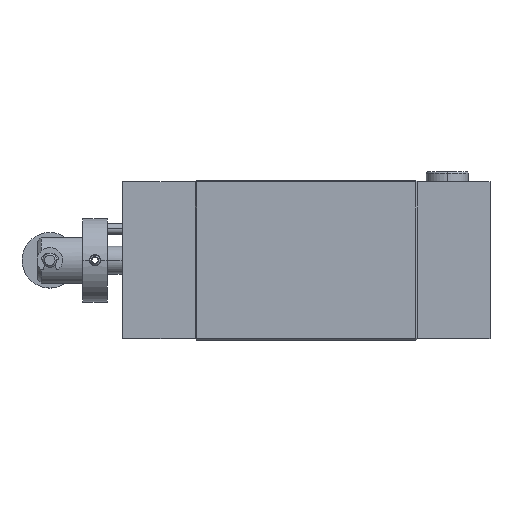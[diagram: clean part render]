
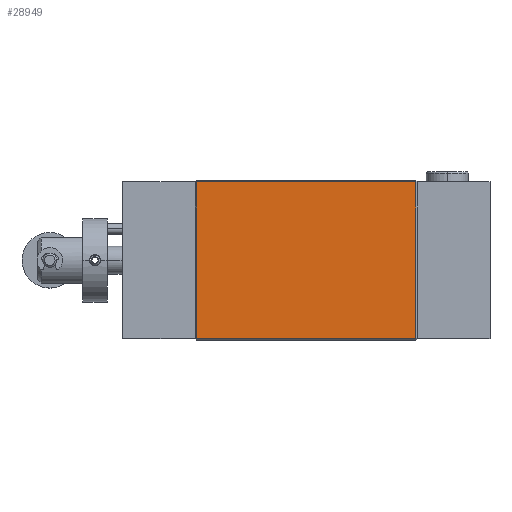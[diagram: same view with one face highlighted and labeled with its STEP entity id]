
A CAD part, top view. The second image highlights one B-rep face of the part: STEP entity #28949.
In plain terms, the highlighted planar face has unit normal (0, 0, 1).
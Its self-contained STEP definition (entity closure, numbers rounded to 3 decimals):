
#2196 = ORIENTED_EDGE ( 'NONE', *, *, #70560, .T. ) ;
#4195 = CARTESIAN_POINT ( 'NONE',  ( 63.5, 22.5, 23. ) ) ;
#7194 = VERTEX_POINT ( 'NONE', #35461 ) ;
#7579 = CARTESIAN_POINT ( 'NONE',  ( 64., -23., 23. ) ) ;
#10729 = ORIENTED_EDGE ( 'NONE', *, *, #64594, .T. ) ;
#11699 = LINE ( 'NONE', #29786, #53508 ) ;
#12896 = PLANE ( 'NONE',  #53260 ) ;
#13144 = DIRECTION ( 'NONE',  ( -1., 0., 0. ) ) ;
#14019 = LINE ( 'NONE', #17998, #55836 ) ;
#14941 = CARTESIAN_POINT ( 'NONE',  ( 63.5, -22.5, 23. ) ) ;
#16258 = VECTOR ( 'NONE', #32521, 1000. ) ;
#16950 = EDGE_LOOP ( 'NONE', ( #2196, #66184, #47080, #10729 ) ) ;
#17998 = CARTESIAN_POINT ( 'NONE',  ( 63.5, -23., 23. ) ) ;
#18628 = FACE_OUTER_BOUND ( 'NONE', #16950, .T. ) ;
#27025 = CARTESIAN_POINT ( 'NONE',  ( 0.5, -23., 23. ) ) ;
#28359 = CARTESIAN_POINT ( 'NONE',  ( 0.5, -22.5, 23. ) ) ;
#28949 = ADVANCED_FACE ( 'NONE', ( #18628 ), #12896, .F. ) ;
#29457 = EDGE_CURVE ( 'NONE', #59585, #61262, #11699, .T. ) ;
#29786 = CARTESIAN_POINT ( 'NONE',  ( 64., -22.5, 23. ) ) ;
#32521 = DIRECTION ( 'NONE',  ( 0., -1., 0. ) ) ;
#35248 = DIRECTION ( 'NONE',  ( 1., 0., 0. ) ) ;
#35461 = CARTESIAN_POINT ( 'NONE',  ( 0.5, 22.5, 23. ) ) ;
#41923 = VERTEX_POINT ( 'NONE', #4195 ) ;
#45300 = LINE ( 'NONE', #27025, #16258 ) ;
#45844 = DIRECTION ( 'NONE',  ( 0., 0., -1. ) ) ;
#47080 = ORIENTED_EDGE ( 'NONE', *, *, #29457, .T. ) ;
#47926 = VECTOR ( 'NONE', #67815, 1000. ) ;
#50660 = DIRECTION ( 'NONE',  ( 0., 1., 0. ) ) ;
#53260 = AXIS2_PLACEMENT_3D ( 'NONE', #7579, #45844, #13144 ) ;
#53508 = VECTOR ( 'NONE', #35248, 1000. ) ;
#55836 = VECTOR ( 'NONE', #50660, 1000. ) ;
#58989 = EDGE_CURVE ( 'NONE', #7194, #59585, #45300, .T. ) ;
#59585 = VERTEX_POINT ( 'NONE', #28359 ) ;
#61262 = VERTEX_POINT ( 'NONE', #14941 ) ;
#64594 = EDGE_CURVE ( 'NONE', #61262, #41923, #14019, .T. ) ;
#66184 = ORIENTED_EDGE ( 'NONE', *, *, #58989, .T. ) ;
#67815 = DIRECTION ( 'NONE',  ( -1., 0., 0. ) ) ;
#68036 = CARTESIAN_POINT ( 'NONE',  ( 64., 22.5, 23. ) ) ;
#70071 = LINE ( 'NONE', #68036, #47926 ) ;
#70560 = EDGE_CURVE ( 'NONE', #41923, #7194, #70071, .T. ) ;
